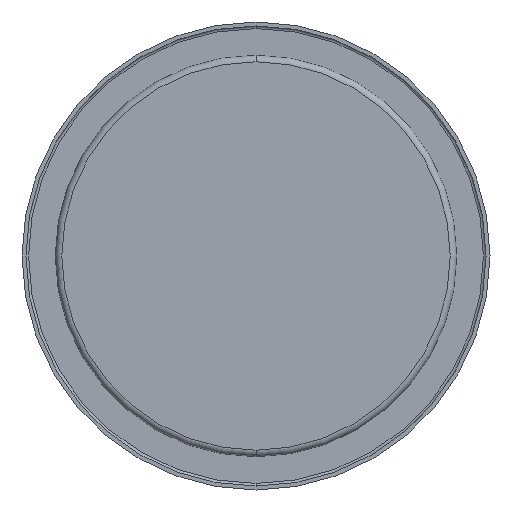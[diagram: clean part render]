
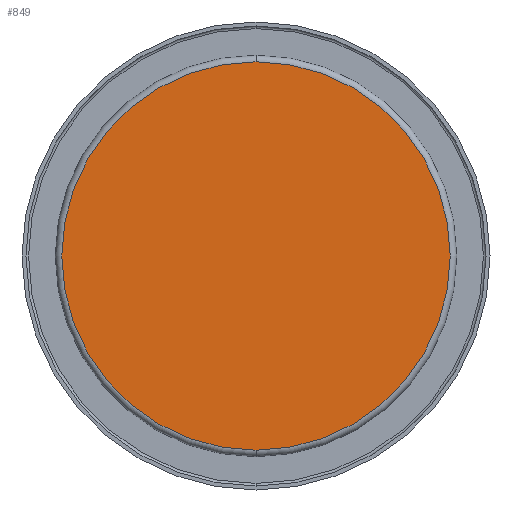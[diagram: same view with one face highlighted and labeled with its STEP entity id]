
A CAD part, front view. The second image highlights one B-rep face of the part: STEP entity #849.
In plain terms, the highlighted planar face has unit normal (0, -1, 0).
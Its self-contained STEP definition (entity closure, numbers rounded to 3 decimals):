
#111 = VERTEX_POINT ( 'NONE', #1169 ) ;
#252 = AXIS2_PLACEMENT_3D ( 'NONE', #734, #631, #375 ) ;
#279 = ORIENTED_EDGE ( 'NONE', *, *, #629, .F. ) ;
#321 = EDGE_CURVE ( 'NONE', #111, #1142, #549, .T. ) ;
#363 = ORIENTED_EDGE ( 'NONE', *, *, #321, .F. ) ;
#375 = DIRECTION ( 'NONE',  ( 0., 0., 1. ) ) ;
#387 = PLANE ( 'NONE',  #634 ) ;
#549 = CIRCLE ( 'NONE', #666, 147.711 ) ;
#555 = FACE_OUTER_BOUND ( 'NONE', #744, .T. ) ;
#629 = EDGE_CURVE ( 'NONE', #1142, #111, #1014, .T. ) ;
#631 = DIRECTION ( 'NONE',  ( 0., 1., 0. ) ) ;
#634 = AXIS2_PLACEMENT_3D ( 'NONE', #1122, #845, #771 ) ;
#666 = AXIS2_PLACEMENT_3D ( 'NONE', #693, #777, #1053 ) ;
#693 = CARTESIAN_POINT ( 'NONE',  ( 0., -76.972, 0. ) ) ;
#734 = CARTESIAN_POINT ( 'NONE',  ( 0., -76.972, 0. ) ) ;
#744 = EDGE_LOOP ( 'NONE', ( #279, #363 ) ) ;
#771 = DIRECTION ( 'NONE',  ( 0., 0., 1. ) ) ;
#777 = DIRECTION ( 'NONE',  ( 0., 1., 0. ) ) ;
#845 = DIRECTION ( 'NONE',  ( 0., 1., 0. ) ) ;
#849 = ADVANCED_FACE ( 'NONE', ( #555 ), #387, .F. ) ;
#903 = CARTESIAN_POINT ( 'NONE',  ( 0., -76.972, 147.711 ) ) ;
#1014 = CIRCLE ( 'NONE', #252, 147.711 ) ;
#1053 = DIRECTION ( 'NONE',  ( 0., 0., 1. ) ) ;
#1122 = CARTESIAN_POINT ( 'NONE',  ( 147.711, -76.972, 0. ) ) ;
#1142 = VERTEX_POINT ( 'NONE', #903 ) ;
#1169 = CARTESIAN_POINT ( 'NONE',  ( 0., -76.972, -147.711 ) ) ;
